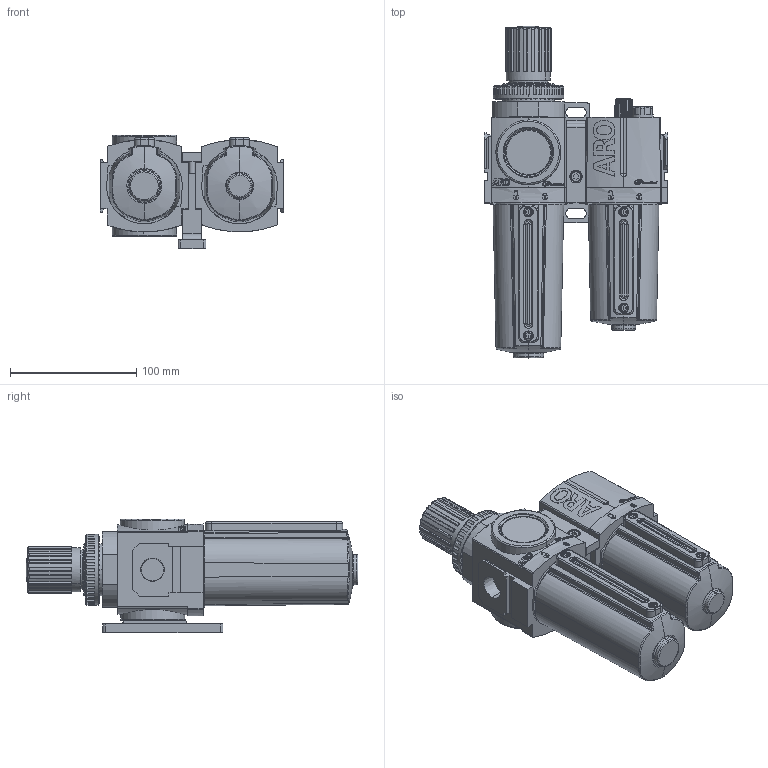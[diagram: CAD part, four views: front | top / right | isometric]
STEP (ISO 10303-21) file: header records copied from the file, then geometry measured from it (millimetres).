
FILE_DESCRIPTION(/* description */ (''),/* implementation_level */ '2;1');
FILE_NAME(/* name */ 'C383X1-61X_01',/* time_stamp */ '2009-02-06T13:55:35-05:00',/* author */ (''),/* organization */ (''),/* preprocessor_version */ 'ST-DEVELOPER v9',/* originating_system */ 'UGS - NX 4.0',/* authorisation */ '');
FILE_SCHEMA (('AUTOMOTIVE_DESIGN { 1 0 10303 214 1 1 1 1 }'));
Products named in the file (1): szeeA340nhpo
Bounding box: 145.4 x 262.89 x 89.8 mm (x, y, z)
Volume: 1309889.7 mm3; surface area: 143024.7 mm2
Topology: 4 solids, 4 shells, 2717 faces, 6980 edges, 4493 vertices
Faces by surface type: plane 1615, cylinder 600, extrusion 132, bspline 122, cone 114, torus 92, sphere 28, revolution 14
Entity records: 118255 total; most frequent: CARTESIAN_POINT 36040, ORIENTED_EDGE 13920, DIRECTION 11628, EDGE_CURVE 6960, VERTEX_POINT 4497, VECTOR 4228, LINE 4096, AXIS2_PLACEMENT_3D 3693
